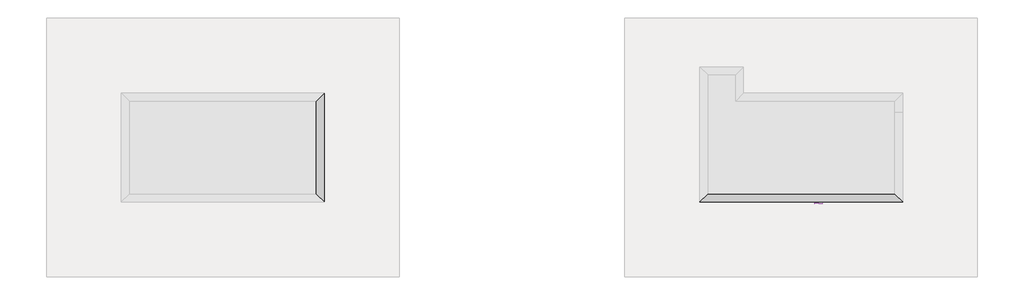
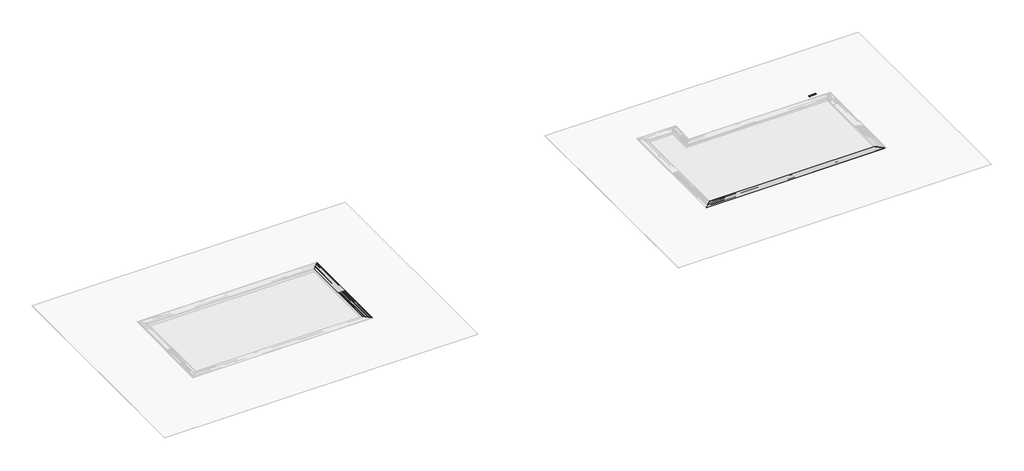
# One storey, part 3 of 6: 7 proxies.
"""IFC4 building model written with IfcOpenShell, lengths in millimetres."""

import ifcopenshell
import ifcopenshell.guid

model = None  # the IFC model being written
_history = None  # IfcOwnerHistory: only IFC2X3 demands one
_inside = {}  # id of a spatial element -> (the spatial element, [elements in it])
_under = {}  # id of a project, library or spatial element -> (it, [spatial elements below it])
_declared = {}  # id of a project -> (the project, [libraries it declares])
_typed = {}  # id of a type object -> (the type object, [elements of that type])
_made_of = {}  # id of a material, layer set ... -> (it, [elements and type objects made of it])


def new_model(schema):
    """Start an empty IFC model of exactly this schema.

    Asked for "IFC4X3", IfcOpenShell would pick the latest addendum, in which some entities
    have other attributes; the version numbers below select the first issue.
    IFC2X3 requires an IfcOwnerHistory on every rooted entity: one is made here for all.
    """
    global model, _history
    if schema == "IFC4X3":
        model = ifcopenshell.file(schema_version=(4, 3, 0, 0))
    else:
        model = ifcopenshell.file(schema=schema)
    _inside.clear()
    _under.clear()
    _declared.clear()
    _typed.clear()
    _made_of.clear()
    _history = None
    if model.schema == "IFC2X3":
        org = make("IfcOrganization", Name="unknown")
        user = make(
            "IfcPersonAndOrganization",
            ThePerson=make("IfcPerson", FamilyName="unknown"),
            TheOrganization=org,
        )
        app = make(
            "IfcApplication",
            ApplicationDeveloper=org,
            Version="unknown",
            ApplicationFullName="unknown",
            ApplicationIdentifier="unknown",
        )
        _history = make(
            "IfcOwnerHistory",
            OwningUser=user,
            OwningApplication=app,
            ChangeAction="ADDED",
            CreationDate=0,
        )
    return model


def make(cls, **values):
    """One entity of the class cls with the attributes given. An attribute that is None is left unset."""
    return model.create_entity(
        cls, **{name: value for name, value in values.items() if value is not None}
    )


def rooted(cls, **values):
    """An entity with a GlobalId (a new one), such as an element, a storey or a relation."""
    return make(cls, GlobalId=ifcopenshell.guid.new(), OwnerHistory=_history, **values)


def si_unit(unit_type, name, prefix=None):
    """IfcSIUnit, for example si_unit("LENGTHUNIT", "METRE", prefix="MILLI")."""
    return make("IfcSIUnit", UnitType=unit_type, Prefix=prefix, Name=name)


def assignment(units):
    """IfcUnitAssignment: the units of a project."""
    return None if units is None else make("IfcUnitAssignment", Units=units)


def point(xyz):
    """IfcCartesianPoint."""
    return None if xyz is None else make("IfcCartesianPoint", Coordinates=xyz)


def direction(xyz):
    """IfcDirection."""
    return None if xyz is None else make("IfcDirection", DirectionRatios=xyz)


def frame(location, z_axis=None, x_axis=None):
    """IfcAxis2Placement3D, a coordinate frame: its origin and axes. An axis left out is left unset."""
    return make(
        "IfcAxis2Placement3D",
        Location=point(location),
        Axis=direction(z_axis),
        RefDirection=direction(x_axis),
    )


def frame_2d(location, x_axis=None):
    """IfcAxis2Placement2D, a coordinate frame in the plane: its origin and x axis."""
    return make(
        "IfcAxis2Placement2D", Location=point(location), RefDirection=direction(x_axis)
    )


def origin():
    """The frame at (0, 0, 0) with its axes left unset."""
    return frame((0.0, 0.0, 0.0))


def place(relative_to, where):
    """IfcLocalPlacement: puts the frame where relative to a parent placement (None: the world)."""
    return make(
        "IfcLocalPlacement", PlacementRelTo=relative_to, RelativePlacement=where
    )


def context(
    kind, dimensions, precision=None, world=None, true_north=None, identifier=None
):
    """IfcGeometricRepresentationContext, for example the 3D "Model" context."""
    return make(
        "IfcGeometricRepresentationContext",
        ContextIdentifier=identifier,
        ContextType=kind,
        CoordinateSpaceDimension=dimensions,
        Precision=precision,
        WorldCoordinateSystem=world,
        TrueNorth=true_north,
    )


def project(units=None, contexts=None):
    """IfcProject with its units and contexts."""
    return rooted(
        "IfcProject",
        Name="project",
        RepresentationContexts=contexts,
        UnitsInContext=assignment(units),
    )


def spatial(cls, under=None, at=None, **own):
    """A site, building, storey or space (cls), placed at a placement, below another one or the project."""
    s = rooted(cls, ObjectPlacement=at, **own)
    if under is not None:
        _under.setdefault(under.id(), (under, []))[1].append(s)
    return s


def polyline(points):
    """IfcPolyline through the points."""
    return make("IfcPolyline", Points=[point(p) for p in points])


def circle_curve(where, radius):
    """IfcCircle in the frame where."""
    return make("IfcCircle", Position=where, Radius=radius)


def trimmed(basis, trim1, trim2, sense, master):
    """IfcTrimmedCurve: the piece of a basis curve between two trims."""
    return make(
        "IfcTrimmedCurve",
        BasisCurve=basis,
        Trim1=trim1,
        Trim2=trim2,
        SenseAgreement=sense,
        MasterRepresentation=master,
    )


def segment(curve, same_sense, transition):
    """IfcCompositeCurveSegment."""
    return make(
        "IfcCompositeCurveSegment",
        Transition=transition,
        SameSense=same_sense,
        ParentCurve=curve,
    )


def composite_curve(segments, self_intersect=None):
    """IfcCompositeCurve: segments joined end to end."""
    return make("IfcCompositeCurve", Segments=segments, SelfIntersect=self_intersect)


def outline(outer, holes=None, kind="AREA"):
    """IfcArbitraryClosedProfileDef: a profile drawn as a closed curve; with holes, ...WithVoids."""
    if holes is None:
        return make("IfcArbitraryClosedProfileDef", ProfileType=kind, OuterCurve=outer)
    return make(
        "IfcArbitraryProfileDefWithVoids",
        ProfileType=kind,
        OuterCurve=outer,
        InnerCurves=holes,
    )


def extrude(swept, where, along, depth):
    """IfcExtrudedAreaSolid: the profile swept, set in the frame where, extruded along a direction by depth."""
    return make(
        "IfcExtrudedAreaSolid",
        SweptArea=swept,
        Position=where,
        ExtrudedDirection=direction(along),
        Depth=depth,
    )


def faces_of(points, faces, orient=None, outer=None):
    """IfcFace entities. A face is a list of loops; a loop is a list of indices into points, from 0.

    orient and outer hold one flag for each loop. By default every Orientation is true, the
    first loop of a face is its IfcFaceOuterBound and the others are IfcFaceBound.
    """
    made = []
    for i, loops in enumerate(faces):
        bounds = []
        for j, loop in enumerate(loops):
            is_outer = j == 0 if outer is None else outer[i][j]
            bounds.append(
                make(
                    "IfcFaceOuterBound" if is_outer else "IfcFaceBound",
                    Bound=make("IfcPolyLoop", Polygon=[points[k] for k in loop]),
                    Orientation=True if orient is None else orient[i][j],
                )
            )
        made.append(make("IfcFace", Bounds=bounds))
    return made


def faceted_brep(points, faces, orient=None, outer=None, voids=None):
    """IfcFacetedBrep: a solid bounded by flat faces; with voids (closed shells), ...WithVoids."""
    shared = [point(p) for p in points]
    hull = make("IfcClosedShell", CfsFaces=faces_of(shared, faces, orient, outer))
    if voids is None:
        return make("IfcFacetedBrep", Outer=hull)
    return make(
        "IfcFacetedBrepWithVoids",
        Outer=hull,
        Voids=[
            make(cls, CfsFaces=faces_of(shared, fs, o, b)) for cls, fs, o, b in voids
        ],
    )


def shape(context_of_items, identifier, shape_type, items):
    """IfcShapeRepresentation: the items that make up one representation, for example the "Body"."""
    return make(
        "IfcShapeRepresentation",
        ContextOfItems=context_of_items,
        RepresentationIdentifier=identifier,
        RepresentationType=shape_type,
        Items=items,
    )


def source(mapping_origin, context_of_items, identifier, shape_type, items):
    """IfcRepresentationMap: a shape defined once, which mapped items show again and again."""
    return make(
        "IfcRepresentationMap",
        MappingOrigin=mapping_origin,
        MappedRepresentation=shape(context_of_items, identifier, shape_type, items),
    )


def transform(
    local_origin,
    x_axis=None,
    y_axis=None,
    z_axis=None,
    scale=None,
    scale2=None,
    scale3=None,
    uniform=True,
):
    """IfcCartesianTransformationOperator3D, or its non-uniform kind. x_axis, y_axis, z_axis: its Axis1, 2, 3."""
    if uniform:
        return make(
            "IfcCartesianTransformationOperator3D",
            Axis1=direction(x_axis),
            Axis2=direction(y_axis),
            LocalOrigin=point(local_origin),
            Scale=scale,
            Axis3=direction(z_axis),
        )
    return make(
        "IfcCartesianTransformationOperator3DnonUniform",
        Axis1=direction(x_axis),
        Axis2=direction(y_axis),
        LocalOrigin=point(local_origin),
        Scale=scale,
        Axis3=direction(z_axis),
        Scale2=scale2,
        Scale3=scale3,
    )


def mapped(mapping_source, mapping_target):
    """IfcMappedItem: shows the shape of a source again, moved by a transform."""
    return make(
        "IfcMappedItem", MappingSource=mapping_source, MappingTarget=mapping_target
    )


def made_of(thing, what):
    """Note that an element or type object is made of a material, layer set ...; save() writes the relation."""
    if what is not None:
        _made_of.setdefault(what.id(), (what, []))[1].append(thing)
    return thing


def element(
    cls,
    number,
    at=None,
    inside=None,
    cuts=None,
    type_object=None,
    material=None,
    context=None,
    identifier="Body",
    shape_type=None,
    held_by="IfcProductDefinitionShape",
    body=None,
    shapes=None,
    **own,
):
    """One element of the class cls, such as IfcWall. Its Tag is "e" and its number.

    at: its placement. inside: the storey or other place that contains it. cuts: it is an
    opening in that element (IfcRelVoidsElement). A single representation is given by context,
    identifier, shape_type and body (its items); several are given by shapes. held_by: the class
    of the entity that holds the representations. save() writes the other relations.
    """
    e = rooted(cls, Tag="e%d" % number, ObjectPlacement=at, **own)
    if body is not None:
        shapes = [shape(context, identifier, shape_type, body)]
    if shapes is not None:
        e.Representation = make(held_by, Representations=shapes)
    if inside is not None:
        _inside.setdefault(inside.id(), (inside, []))[1].append(e)
    if cuts is not None:
        rooted(
            "IfcRelVoidsElement", RelatingBuildingElement=cuts, RelatedOpeningElement=e
        )
    if type_object is not None:
        _typed.setdefault(type_object.id(), (type_object, []))[1].append(e)
    return made_of(e, material)


def aggregate(whole, parts):
    """IfcRelAggregates: a whole, such as a stair, and the parts it consists of."""
    return rooted("IfcRelAggregates", RelatingObject=whole, RelatedObjects=parts)


def save(model, path):
    """Write the relations noted so far, then the file.

    IfcRelAggregates (storeys below a building ...), IfcRelContainedInSpatialStructure (elements
    in a storey), IfcRelDefinesByType, IfcRelAssociatesMaterial and IfcRelDeclares: one each for
    every whole, place, type object, material and project.
    """
    for whole, parts in _under.values():
        aggregate(whole, parts)
    for where, things in _inside.values():
        rooted(
            "IfcRelContainedInSpatialStructure",
            RelatedElements=things,
            RelatingStructure=where,
        )
    for kind, things in _typed.values():
        rooted("IfcRelDefinesByType", RelatedObjects=things, RelatingType=kind)
    for what, things in _made_of.values():
        rooted("IfcRelAssociatesMaterial", RelatedObjects=things, RelatingMaterial=what)
    for by, libraries in _declared.values():
        rooted("IfcRelDeclares", RelatingContext=by, RelatedDefinitions=libraries)
    model.write(path)


def generic_models_2e22c04a(model_context):
    return source(origin(), model_context, "Body", "SweptSolid", [
        extrude(outline(composite_curve([segment(polyline([(0.0, 23.9), (6.4, 23.9)]), True, "CONTINUOUS"), segment(trimmed(circle_curve(frame_2d((-23.9, 23.9)), 30.3), [point((6.4, 23.9))], [point((-23.9, -6.4))], False, "CARTESIAN"), True, "CONTINUOUS"), segment(polyline([(-23.9, -6.4), (-23.9, 0.0)]), True, "CONTINUOUS"), segment(trimmed(circle_curve(frame_2d((-23.9, 23.9)), 23.9), [point((-23.9, 0.0))], [point((0.0, 23.9))], True, "CARTESIAN"), True, "CONTINUOUS")], self_intersect=False)), frame((0.0, 0.0, 0.0), z_axis=(1.0, 0.0, 0.0), x_axis=(0.0, 1.0, 0.0)), (0.0, 0.0, 1.0), 335.0),
    ])


def generic_models_158b5dbd(model_context):
    return source(origin(), model_context, "Body", "SweptSolid", [
        extrude(outline(composite_curve([segment(polyline([(0.0, 23.9), (6.4, 23.9)]), True, "CONTINUOUS"), segment(trimmed(circle_curve(frame_2d((-23.9, 23.9)), 30.3), [point((6.4, 23.9))], [point((-23.9, -6.4))], False, "CARTESIAN"), True, "CONTINUOUS"), segment(polyline([(-23.9, -6.4), (-23.9, 0.0)]), True, "CONTINUOUS"), segment(trimmed(circle_curve(frame_2d((-23.9, 23.9)), 23.9), [point((-23.9, 0.0))], [point((0.0, 23.9))], True, "CARTESIAN"), True, "CONTINUOUS")], self_intersect=False)), frame((0.0, 0.0, 0.0), z_axis=(1.0, 0.0, 0.0), x_axis=(0.0, 1.0, 0.0)), (0.0, 0.0, 1.0), 4123.1056256),
    ])


model = new_model("IFC4")

# Units and contexts
model_context = context("Model", 3, world=origin())
ifc_project = project(units=[si_unit("LENGTHUNIT", "METRE", prefix="MILLI")], contexts=[model_context])

# Site, building, storey
site = spatial("IfcSite", under=ifc_project)
building = spatial("IfcBuilding", under=site)
storey = spatial("IfcBuildingStorey", under=building, Name="EXAGRES_Serie NUBIA_Piscinas_ejemplo", Elevation=18000.0)

# Proxies
placement = place(None, origin())
element("IfcBuildingElementProxy", 1, Name="Wall Sweeps", at=placement, inside=storey, context=model_context, shape_type="SweptSolid", body=[
    extrude(outline(polyline([(-13343.8828161, -4528.6632512), (-13648.8828161, -4223.6632512), (-5008.8828161, -4223.6632512), (-5313.8828161, -4528.6632512), (-13343.8828161, -4528.6632512)])), frame((0.0, 0.0, 17818.74), z_axis=(0.0, 0.0, 1.0), x_axis=(1.0, 0.0, 0.0)), (0.0, 0.0, 1.0), 200.0),
])
element("IfcBuildingElementProxy", 2, Name="Wall Sweeps", at=placement, inside=storey, context=model_context, shape_type="Brep", body=[
    faceted_brep([(19384.1171839, -8556.6632512, 18000.0), (19371.1171839, -8543.6632512, 18000.0), (19371.1171839, -8543.6632512, 18033.0), (19701.1171839, -8873.6632512, 18033.0), (19701.1171839, -8873.6632512, 18021.0), (19695.1171839, -8867.6632512, 18021.0), (19695.1171839, -8867.6632512, 18022.0), (19691.1171839, -8863.6632512, 18022.0), (19691.1171839, -8863.6632512, 18021.0), (19685.1171839, -8857.6632512, 18021.0), (19685.1171839, -8857.6632512, 18022.0), (19681.1171839, -8853.6632512, 18022.0), (19681.1171839, -8853.6632512, 18021.0), (19675.1171839, -8847.6632512, 18021.0), (19675.1171839, -8847.6632512, 18022.0), (19671.1171839, -8843.6632512, 18022.0), (19671.1171839, -8843.6632512, 18021.0), (19665.1171839, -8837.6632512, 18021.0), (19665.1171839, -8837.6632512, 18022.0), (19661.1171839, -8833.6632512, 18022.0), (19661.1171839, -8833.6632512, 18021.0), (19655.1171839, -8827.6632512, 18021.0), (19655.1171839, -8827.6632512, 18022.0), (19651.1171839, -8823.6632512, 18022.0), (19651.1171839, -8823.6632512, 18021.0), (19645.1171839, -8817.6632512, 18021.0), (19645.1171839, -8817.6632512, 18022.0), (19641.1171839, -8813.6632512, 18022.0), (19641.1171839, -8813.6632512, 18021.0), (19635.1171839, -8807.6632512, 18021.0), (19635.1171839, -8807.6632512, 18022.0), (19631.1171839, -8803.6632512, 18022.0), (19631.1171839, -8803.6632512, 18021.0), (19625.1171839, -8797.6632512, 18021.0), (19625.1171839, -8797.6632512, 18022.0), (19621.1171839, -8793.6632512, 18022.0), (19621.1171839, -8793.6632512, 18021.0), (19615.1171839, -8787.6632512, 18021.0), (19615.1171839, -8787.6632512, 18022.0), (19611.1171839, -8783.6632512, 18022.0), (19611.1171839, -8783.6632512, 18021.0), (19605.1171839, -8777.6632512, 18021.0), (19605.1171839, -8777.6632512, 18022.0), (19601.1171839, -8773.6632512, 18022.0), (19601.1171839, -8773.6632512, 18021.0), (19595.1171839, -8767.6632512, 18021.0), (19595.1171839, -8767.6632512, 18022.0), (19591.1171839, -8763.6632512, 18022.0), (19591.1171839, -8763.6632512, 18021.0), (19585.1171839, -8757.6632512, 18021.0), (19585.1171839, -8757.6632512, 18022.0), (19581.1171839, -8753.6632512, 18022.0), (19581.1171839, -8753.6632512, 18021.0), (19575.1171839, -8747.6632512, 18021.0), (19575.1171839, -8747.6632512, 18022.0), (19571.1171839, -8743.6632512, 18022.0), (19571.1171839, -8743.6632512, 18021.0), (19565.1171839, -8737.6632512, 18021.0), (19565.1171839, -8737.6632512, 18022.0), (19561.1171839, -8733.6632512, 18022.0), (19561.1171839, -8733.6632512, 18021.0), (19555.1171839, -8727.6632512, 18021.0), (19555.1171839, -8727.6632512, 18022.0), (19551.1171839, -8723.6632512, 18022.0), (19551.1171839, -8723.6632512, 18021.0), (19545.1171839, -8717.6632512, 18021.0), (19545.1171839, -8717.6632512, 18022.0), (19541.1171839, -8713.6632512, 18022.0), (19541.1171839, -8713.6632512, 18021.0), (19535.1171839, -8707.6632512, 18021.0), (19535.1171839, -8707.6632512, 18022.0), (19531.1171839, -8703.6632512, 18022.0), (19531.1171839, -8703.6632512, 18021.0), (19525.1171839, -8697.6632512, 18021.0), (19525.1171839, -8697.6632512, 18022.0), (19521.1171839, -8693.6632512, 18022.0), (19521.1171839, -8693.6632512, 18021.0), (19515.1171839, -8687.6632512, 18021.0), (19515.1171839, -8687.6632512, 18022.0), (19511.1171839, -8683.6632512, 18022.0), (19511.1171839, -8683.6632512, 18021.0), (19505.1171839, -8677.6632512, 18021.0), (19505.1171839, -8677.6632512, 18022.0), (19501.1171839, -8673.6632512, 18022.0), (19501.1171839, -8673.6632512, 18021.0), (19495.1171839, -8667.6632512, 18021.0), (19495.1171839, -8667.6632512, 18022.0), (19491.1171839, -8663.6632512, 18022.0), (19491.1171839, -8663.6632512, 18021.0), (19485.1171839, -8657.6632512, 18021.0), (19485.1171839, -8657.6632512, 18022.0), (19481.1171839, -8653.6632512, 18022.0), (19481.1171839, -8653.6632512, 18021.0), (19475.1171839, -8647.6632512, 18021.0), (19475.1171839, -8647.6632512, 18022.0), (19471.1171839, -8643.6632512, 18022.0), (19471.1171839, -8643.6632512, 18021.0), (19465.1171839, -8637.6632512, 18021.0), (19465.1171839, -8637.6632512, 18022.0), (19461.1171839, -8633.6632512, 18022.0), (19461.1171839, -8633.6632512, 18021.0), (19455.1171839, -8627.6632512, 18021.0), (19455.1171839, -8627.6632512, 18022.0), (19451.1171839, -8623.6632512, 18022.0), (19451.1171839, -8623.6632512, 18021.0), (19445.1171839, -8617.6632512, 18021.0), (19445.1171839, -8617.6632512, 18022.0), (19441.1171839, -8613.6632512, 18022.0), (19441.1171839, -8613.6632512, 18021.0), (19435.1171839, -8607.6632512, 18021.0), (19435.1171839, -8607.6632512, 18022.0), (19431.1171839, -8603.6632512, 18022.0), (19431.1171839, -8603.6632512, 18021.0), (19425.1171839, -8597.6632512, 18021.0), (19425.1171839, -8597.6632512, 18022.0), (19421.1171839, -8593.6632512, 18022.0), (19421.1171839, -8593.6632512, 18021.0), (19415.1171839, -8587.6632512, 18021.0), (19415.1171839, -8587.6632512, 18022.0), (19411.1171839, -8583.6632512, 18022.0), (19411.1171839, -8583.6632512, 18021.0), (19405.1171839, -8577.6632512, 18021.0), (19405.1171839, -8577.6632512, 18022.0), (19401.1171839, -8573.6632512, 18022.0), (19401.1171839, -8573.6632512, 18021.0), (19395.1171839, -8567.6632512, 18021.0), (19395.1171839, -8567.6632512, 18022.0), (19391.1171839, -8563.6632512, 18022.0), (19391.1171839, -8563.6632512, 18021.0), (19384.1171839, -8556.6632512, 18021.0), (19384.1171839, -8556.6632512, 18014.0), (19383.1171839, -8555.6632512, 18014.0), (19383.1171839, -8555.6632512, 18008.0), (19384.1171839, -8556.6632512, 18008.0), (11358.1171839, -8556.6632512, 18000.0), (11358.1171839, -8556.6632512, 18008.0), (11359.1171839, -8555.6632512, 18008.0), (11359.1171839, -8555.6632512, 18014.0), (11358.1171839, -8556.6632512, 18014.0), (11358.1171839, -8556.6632512, 18021.0), (11351.1171839, -8563.6632512, 18021.0), (11351.1171839, -8563.6632512, 18022.0), (11347.1171839, -8567.6632512, 18022.0), (11347.1171839, -8567.6632512, 18021.0), (11341.1171839, -8573.6632512, 18021.0), (11341.1171839, -8573.6632512, 18022.0), (11337.1171839, -8577.6632512, 18022.0), (11337.1171839, -8577.6632512, 18021.0), (11331.1171839, -8583.6632512, 18021.0), (11331.1171839, -8583.6632512, 18022.0), (11327.1171839, -8587.6632512, 18022.0), (11327.1171839, -8587.6632512, 18021.0), (11321.1171839, -8593.6632512, 18021.0), (11321.1171839, -8593.6632512, 18022.0), (11317.1171839, -8597.6632512, 18022.0), (11317.1171839, -8597.6632512, 18021.0), (11311.1171839, -8603.6632512, 18021.0), (11311.1171839, -8603.6632512, 18022.0), (11307.1171839, -8607.6632512, 18022.0), (11307.1171839, -8607.6632512, 18021.0), (11301.1171839, -8613.6632512, 18021.0), (11301.1171839, -8613.6632512, 18022.0), (11297.1171839, -8617.6632512, 18022.0), (11297.1171839, -8617.6632512, 18021.0), (11291.1171839, -8623.6632512, 18021.0), (11291.1171839, -8623.6632512, 18022.0), (11287.1171839, -8627.6632512, 18022.0), (11287.1171839, -8627.6632512, 18021.0), (11281.1171839, -8633.6632512, 18021.0), (11281.1171839, -8633.6632512, 18022.0), (11277.1171839, -8637.6632512, 18022.0), (11277.1171839, -8637.6632512, 18021.0), (11271.1171839, -8643.6632512, 18021.0), (11271.1171839, -8643.6632512, 18022.0), (11267.1171839, -8647.6632512, 18022.0), (11267.1171839, -8647.6632512, 18021.0), (11261.1171839, -8653.6632512, 18021.0), (11261.1171839, -8653.6632512, 18022.0), (11257.1171839, -8657.6632512, 18022.0), (11257.1171839, -8657.6632512, 18021.0), (11251.1171839, -8663.6632512, 18021.0), (11251.1171839, -8663.6632512, 18022.0), (11247.1171839, -8667.6632512, 18022.0), (11247.1171839, -8667.6632512, 18021.0), (11241.1171839, -8673.6632512, 18021.0), (11241.1171839, -8673.6632512, 18022.0), (11237.1171839, -8677.6632512, 18022.0), (11237.1171839, -8677.6632512, 18021.0), (11231.1171839, -8683.6632512, 18021.0), (11231.1171839, -8683.6632512, 18022.0), (11227.1171839, -8687.6632512, 18022.0), (11227.1171839, -8687.6632512, 18021.0), (11221.1171839, -8693.6632512, 18021.0), (11221.1171839, -8693.6632512, 18022.0), (11217.1171839, -8697.6632512, 18022.0), (11217.1171839, -8697.6632512, 18021.0), (11211.1171839, -8703.6632512, 18021.0), (11211.1171839, -8703.6632512, 18022.0), (11207.1171839, -8707.6632512, 18022.0), (11207.1171839, -8707.6632512, 18021.0), (11201.1171839, -8713.6632512, 18021.0), (11201.1171839, -8713.6632512, 18022.0), (11197.1171839, -8717.6632512, 18022.0), (11197.1171839, -8717.6632512, 18021.0), (11191.1171839, -8723.6632512, 18021.0), (11191.1171839, -8723.6632512, 18022.0), (11187.1171839, -8727.6632512, 18022.0), (11187.1171839, -8727.6632512, 18021.0), (11181.1171839, -8733.6632512, 18021.0), (11181.1171839, -8733.6632512, 18022.0), (11177.1171839, -8737.6632512, 18022.0), (11177.1171839, -8737.6632512, 18021.0), (11171.1171839, -8743.6632512, 18021.0), (11171.1171839, -8743.6632512, 18022.0), (11167.1171839, -8747.6632512, 18022.0), (11167.1171839, -8747.6632512, 18021.0), (11161.1171839, -8753.6632512, 18021.0), (11161.1171839, -8753.6632512, 18022.0), (11157.1171839, -8757.6632512, 18022.0), (11157.1171839, -8757.6632512, 18021.0), (11151.1171839, -8763.6632512, 18021.0), (11151.1171839, -8763.6632512, 18022.0), (11147.1171839, -8767.6632512, 18022.0), (11147.1171839, -8767.6632512, 18021.0), (11141.1171839, -8773.6632512, 18021.0), (11141.1171839, -8773.6632512, 18022.0), (11137.1171839, -8777.6632512, 18022.0), (11137.1171839, -8777.6632512, 18021.0), (11131.1171839, -8783.6632512, 18021.0), (11131.1171839, -8783.6632512, 18022.0), (11127.1171839, -8787.6632512, 18022.0), (11127.1171839, -8787.6632512, 18021.0), (11121.1171839, -8793.6632512, 18021.0), (11121.1171839, -8793.6632512, 18022.0), (11117.1171839, -8797.6632512, 18022.0), (11117.1171839, -8797.6632512, 18021.0), (11111.1171839, -8803.6632512, 18021.0), (11111.1171839, -8803.6632512, 18022.0), (11107.1171839, -8807.6632512, 18022.0), (11107.1171839, -8807.6632512, 18021.0), (11101.1171839, -8813.6632512, 18021.0), (11101.1171839, -8813.6632512, 18022.0), (11097.1171839, -8817.6632512, 18022.0), (11097.1171839, -8817.6632512, 18021.0), (11091.1171839, -8823.6632512, 18021.0), (11091.1171839, -8823.6632512, 18022.0), (11087.1171839, -8827.6632512, 18022.0), (11087.1171839, -8827.6632512, 18021.0), (11081.1171839, -8833.6632512, 18021.0), (11081.1171839, -8833.6632512, 18022.0), (11077.1171839, -8837.6632512, 18022.0), (11077.1171839, -8837.6632512, 18021.0), (11071.1171839, -8843.6632512, 18021.0), (11071.1171839, -8843.6632512, 18022.0), (11067.1171839, -8847.6632512, 18022.0), (11067.1171839, -8847.6632512, 18021.0), (11061.1171839, -8853.6632512, 18021.0), (11061.1171839, -8853.6632512, 18022.0), (11057.1171839, -8857.6632512, 18022.0), (11057.1171839, -8857.6632512, 18021.0), (11051.1171839, -8863.6632512, 18021.0), (11051.1171839, -8863.6632512, 18022.0), (11047.1171839, -8867.6632512, 18022.0), (11047.1171839, -8867.6632512, 18021.0), (11041.1171839, -8873.6632512, 18021.0), (11041.1171839, -8873.6632512, 18033.0), (11371.1171839, -8543.6632512, 18033.0), (11371.1171839, -8543.6632512, 18000.0)], [[[0, 1, 2, 3, 4, 5, 6, 7, 8, 9, 10, 11, 12, 13, 14, 15, 16, 17, 18, 19, 20, 21, 22, 23, 24, 25, 26, 27, 28, 29, 30, 31, 32, 33, 34, 35, 36, 37, 38, 39, 40, 41, 42, 43, 44, 45, 46, 47, 48, 49, 50, 51, 52, 53, 54, 55, 56, 57, 58, 59, 60, 61, 62, 63, 64, 65, 66, 67, 68, 69, 70, 71, 72, 73, 74, 75, 76, 77, 78, 79, 80, 81, 82, 83, 84, 85, 86, 87, 88, 89, 90, 91, 92, 93, 94, 95, 96, 97, 98, 99, 100, 101, 102, 103, 104, 105, 106, 107, 108, 109, 110, 111, 112, 113, 114, 115, 116, 117, 118, 119, 120, 121, 122, 123, 124, 125, 126, 127, 128, 129, 130, 131, 132, 133]], [[134, 135, 136, 137, 138, 139, 140, 141, 142, 143, 144, 145, 146, 147, 148, 149, 150, 151, 152, 153, 154, 155, 156, 157, 158, 159, 160, 161, 162, 163, 164, 165, 166, 167, 168, 169, 170, 171, 172, 173, 174, 175, 176, 177, 178, 179, 180, 181, 182, 183, 184, 185, 186, 187, 188, 189, 190, 191, 192, 193, 194, 195, 196, 197, 198, 199, 200, 201, 202, 203, 204, 205, 206, 207, 208, 209, 210, 211, 212, 213, 214, 215, 216, 217, 218, 219, 220, 221, 222, 223, 224, 225, 226, 227, 228, 229, 230, 231, 232, 233, 234, 235, 236, 237, 238, 239, 240, 241, 242, 243, 244, 245, 246, 247, 248, 249, 250, 251, 252, 253, 254, 255, 256, 257, 258, 259, 260, 261, 262, 263, 264, 265, 266, 267]], [[1, 0, 134, 267]], [[2, 1, 267, 266]], [[3, 2, 266, 265]], [[4, 3, 265, 264]], [[5, 4, 264, 263]], [[6, 5, 263, 262]], [[7, 6, 262, 261]], [[8, 7, 261, 260]], [[9, 8, 260, 259]], [[10, 9, 259, 258]], [[11, 10, 258, 257]], [[12, 11, 257, 256]], [[13, 12, 256, 255]], [[14, 13, 255, 254]], [[15, 14, 254, 253]], [[16, 15, 253, 252]], [[17, 16, 252, 251]], [[18, 17, 251, 250]], [[19, 18, 250, 249]], [[20, 19, 249, 248]], [[21, 20, 248, 247]], [[22, 21, 247, 246]], [[23, 22, 246, 245]], [[24, 23, 245, 244]], [[25, 24, 244, 243]], [[26, 25, 243, 242]], [[27, 26, 242, 241]], [[28, 27, 241, 240]], [[29, 28, 240, 239]], [[30, 29, 239, 238]], [[31, 30, 238, 237]], [[32, 31, 237, 236]], [[33, 32, 236, 235]], [[34, 33, 235, 234]], [[35, 34, 234, 233]], [[36, 35, 233, 232]], [[37, 36, 232, 231]], [[38, 37, 231, 230]], [[39, 38, 230, 229]], [[40, 39, 229, 228]], [[41, 40, 228, 227]], [[42, 41, 227, 226]], [[43, 42, 226, 225]], [[44, 43, 225, 224]], [[45, 44, 224, 223]], [[46, 45, 223, 222]], [[47, 46, 222, 221]], [[48, 47, 221, 220]], [[49, 48, 220, 219]], [[50, 49, 219, 218]], [[51, 50, 218, 217]], [[52, 51, 217, 216]], [[53, 52, 216, 215]], [[54, 53, 215, 214]], [[55, 54, 214, 213]], [[56, 55, 213, 212]], [[57, 56, 212, 211]], [[58, 57, 211, 210]], [[59, 58, 210, 209]], [[60, 59, 209, 208]], [[61, 60, 208, 207]], [[62, 61, 207, 206]], [[63, 62, 206, 205]], [[64, 63, 205, 204]], [[65, 64, 204, 203]], [[66, 65, 203, 202]], [[67, 66, 202, 201]], [[68, 67, 201, 200]], [[69, 68, 200, 199]], [[70, 69, 199, 198]], [[71, 70, 198, 197]], [[72, 71, 197, 196]], [[73, 72, 196, 195]], [[74, 73, 195, 194]], [[75, 74, 194, 193]], [[76, 75, 193, 192]], [[77, 76, 192, 191]], [[78, 77, 191, 190]], [[79, 78, 190, 189]], [[80, 79, 189, 188]], [[81, 80, 188, 187]], [[82, 81, 187, 186]], [[83, 82, 186, 185]], [[84, 83, 185, 184]], [[85, 84, 184, 183]], [[86, 85, 183, 182]], [[87, 86, 182, 181]], [[88, 87, 181, 180]], [[89, 88, 180, 179]], [[90, 89, 179, 178]], [[91, 90, 178, 177]], [[92, 91, 177, 176]], [[93, 92, 176, 175]], [[94, 93, 175, 174]], [[95, 94, 174, 173]], [[96, 95, 173, 172]], [[97, 96, 172, 171]], [[98, 97, 171, 170]], [[99, 98, 170, 169]], [[100, 99, 169, 168]], [[101, 100, 168, 167]], [[102, 101, 167, 166]], [[103, 102, 166, 165]], [[104, 103, 165, 164]], [[105, 104, 164, 163]], [[106, 105, 163, 162]], [[107, 106, 162, 161]], [[108, 107, 161, 160]], [[109, 108, 160, 159]], [[110, 109, 159, 158]], [[111, 110, 158, 157]], [[112, 111, 157, 156]], [[113, 112, 156, 155]], [[114, 113, 155, 154]], [[115, 114, 154, 153]], [[116, 115, 153, 152]], [[117, 116, 152, 151]], [[118, 117, 151, 150]], [[119, 118, 150, 149]], [[120, 119, 149, 148]], [[121, 120, 148, 147]], [[122, 121, 147, 146]], [[123, 122, 146, 145]], [[124, 123, 145, 144]], [[125, 124, 144, 143]], [[126, 125, 143, 142]], [[127, 126, 142, 141]], [[128, 127, 141, 140]], [[129, 128, 140, 139]], [[130, 129, 139, 138]], [[131, 130, 138, 137]], [[132, 131, 137, 136]], [[133, 132, 136, 135]], [[0, 133, 135, 134]]]),
])
element("IfcBuildingElementProxy", 3, Name="Wall Sweeps", at=placement, inside=storey, context=model_context, shape_type="Brep", body=[
    faceted_brep([(19691.1171839, -8863.6632512, 17818.74), (19386.1171839, -8558.6632512, 17818.74), (19386.1171839, -8558.6632512, 18018.74), (19691.1171839, -8863.6632512, 18018.74), (11051.1171839, -8863.6632512, 17818.74), (11051.1171839, -8863.6632512, 18018.74), (11356.1171839, -8558.6632512, 18018.74), (11356.1171839, -8558.6632512, 18000.0), (11356.1171839, -8558.6632512, 17818.74), (11146.1171839, -8768.6632512, 17818.74)], [[[0, 1, 2, 3]], [[4, 5, 6, 7, 8, 9]], [[2, 1, 8, 7, 6]], [[1, 0, 4, 9, 8]], [[3, 2, 6, 5]], [[0, 3, 5, 4]]]),
])
element("IfcBuildingElementProxy", 4, Name="Wall Sweeps", at=placement, inside=storey, context=model_context, shape_type="Brep", body=[
    faceted_brep([(-5315.8828161, -4530.6632512, 18000.0), (-5328.8828161, -4543.6632512, 18000.0), (-5328.8828161, -4543.6632512, 18033.0), (-4998.8828161, -4213.6632512, 18033.0), (-4998.8828161, -4213.6632512, 18021.0), (-5004.8828161, -4219.6632512, 18021.0), (-5004.8828161, -4219.6632512, 18022.0), (-5008.8828161, -4223.6632512, 18022.0), (-5008.8828161, -4223.6632512, 18021.0), (-5014.8828161, -4229.6632512, 18021.0), (-5014.8828161, -4229.6632512, 18022.0), (-5018.8828161, -4233.6632512, 18022.0), (-5018.8828161, -4233.6632512, 18021.0), (-5024.8828161, -4239.6632512, 18021.0), (-5024.8828161, -4239.6632512, 18022.0), (-5028.8828161, -4243.6632512, 18022.0), (-5028.8828161, -4243.6632512, 18021.0), (-5034.8828161, -4249.6632512, 18021.0), (-5034.8828161, -4249.6632512, 18022.0), (-5038.8828161, -4253.6632512, 18022.0), (-5038.8828161, -4253.6632512, 18021.0), (-5044.8828161, -4259.6632512, 18021.0), (-5044.8828161, -4259.6632512, 18022.0), (-5048.8828161, -4263.6632512, 18022.0), (-5048.8828161, -4263.6632512, 18021.0), (-5054.8828161, -4269.6632512, 18021.0), (-5054.8828161, -4269.6632512, 18022.0), (-5058.8828161, -4273.6632512, 18022.0), (-5058.8828161, -4273.6632512, 18021.0), (-5064.8828161, -4279.6632512, 18021.0), (-5064.8828161, -4279.6632512, 18022.0), (-5068.8828161, -4283.6632512, 18022.0), (-5068.8828161, -4283.6632512, 18021.0), (-5074.8828161, -4289.6632512, 18021.0), (-5074.8828161, -4289.6632512, 18022.0), (-5078.8828161, -4293.6632512, 18022.0), (-5078.8828161, -4293.6632512, 18021.0), (-5084.8828161, -4299.6632512, 18021.0), (-5084.8828161, -4299.6632512, 18022.0), (-5088.8828161, -4303.6632512, 18022.0), (-5088.8828161, -4303.6632512, 18021.0), (-5094.8828161, -4309.6632512, 18021.0), (-5094.8828161, -4309.6632512, 18022.0), (-5098.8828161, -4313.6632512, 18022.0), (-5098.8828161, -4313.6632512, 18021.0), (-5104.8828161, -4319.6632512, 18021.0), (-5104.8828161, -4319.6632512, 18022.0), (-5108.8828161, -4323.6632512, 18022.0), (-5108.8828161, -4323.6632512, 18021.0), (-5114.8828161, -4329.6632512, 18021.0), (-5114.8828161, -4329.6632512, 18022.0), (-5118.8828161, -4333.6632512, 18022.0), (-5118.8828161, -4333.6632512, 18021.0), (-5124.8828161, -4339.6632512, 18021.0), (-5124.8828161, -4339.6632512, 18022.0), (-5128.8828161, -4343.6632512, 18022.0), (-5128.8828161, -4343.6632512, 18021.0), (-5134.8828161, -4349.6632512, 18021.0), (-5134.8828161, -4349.6632512, 18022.0), (-5138.8828161, -4353.6632512, 18022.0), (-5138.8828161, -4353.6632512, 18021.0), (-5144.8828161, -4359.6632512, 18021.0), (-5144.8828161, -4359.6632512, 18022.0), (-5148.8828161, -4363.6632512, 18022.0), (-5148.8828161, -4363.6632512, 18021.0), (-5154.8828161, -4369.6632512, 18021.0), (-5154.8828161, -4369.6632512, 18022.0), (-5158.8828161, -4373.6632512, 18022.0), (-5158.8828161, -4373.6632512, 18021.0), (-5164.8828161, -4379.6632512, 18021.0), (-5164.8828161, -4379.6632512, 18022.0), (-5168.8828161, -4383.6632512, 18022.0), (-5168.8828161, -4383.6632512, 18021.0), (-5174.8828161, -4389.6632512, 18021.0), (-5174.8828161, -4389.6632512, 18022.0), (-5178.8828161, -4393.6632512, 18022.0), (-5178.8828161, -4393.6632512, 18021.0), (-5184.8828161, -4399.6632512, 18021.0), (-5184.8828161, -4399.6632512, 18022.0), (-5188.8828161, -4403.6632512, 18022.0), (-5188.8828161, -4403.6632512, 18021.0), (-5194.8828161, -4409.6632512, 18021.0), (-5194.8828161, -4409.6632512, 18022.0), (-5198.8828161, -4413.6632512, 18022.0), (-5198.8828161, -4413.6632512, 18021.0), (-5204.8828161, -4419.6632512, 18021.0), (-5204.8828161, -4419.6632512, 18022.0), (-5208.8828161, -4423.6632512, 18022.0), (-5208.8828161, -4423.6632512, 18021.0), (-5214.8828161, -4429.6632512, 18021.0), (-5214.8828161, -4429.6632512, 18022.0), (-5218.8828161, -4433.6632512, 18022.0), (-5218.8828161, -4433.6632512, 18021.0), (-5224.8828161, -4439.6632512, 18021.0), (-5224.8828161, -4439.6632512, 18022.0), (-5228.8828161, -4443.6632512, 18022.0), (-5228.8828161, -4443.6632512, 18021.0), (-5234.8828161, -4449.6632512, 18021.0), (-5234.8828161, -4449.6632512, 18022.0), (-5238.8828161, -4453.6632512, 18022.0), (-5238.8828161, -4453.6632512, 18021.0), (-5244.8828161, -4459.6632512, 18021.0), (-5244.8828161, -4459.6632512, 18022.0), (-5248.8828161, -4463.6632512, 18022.0), (-5248.8828161, -4463.6632512, 18021.0), (-5254.8828161, -4469.6632512, 18021.0), (-5254.8828161, -4469.6632512, 18022.0), (-5258.8828161, -4473.6632512, 18022.0), (-5258.8828161, -4473.6632512, 18021.0), (-5264.8828161, -4479.6632512, 18021.0), (-5264.8828161, -4479.6632512, 18022.0), (-5268.8828161, -4483.6632512, 18022.0), (-5268.8828161, -4483.6632512, 18021.0), (-5274.8828161, -4489.6632512, 18021.0), (-5274.8828161, -4489.6632512, 18022.0), (-5278.8828161, -4493.6632512, 18022.0), (-5278.8828161, -4493.6632512, 18021.0), (-5284.8828161, -4499.6632512, 18021.0), (-5284.8828161, -4499.6632512, 18022.0), (-5288.8828161, -4503.6632512, 18022.0), (-5288.8828161, -4503.6632512, 18021.0), (-5294.8828161, -4509.6632512, 18021.0), (-5294.8828161, -4509.6632512, 18022.0), (-5298.8828161, -4513.6632512, 18022.0), (-5298.8828161, -4513.6632512, 18021.0), (-5304.8828161, -4519.6632512, 18021.0), (-5304.8828161, -4519.6632512, 18022.0), (-5308.8828161, -4523.6632512, 18022.0), (-5308.8828161, -4523.6632512, 18021.0), (-5315.8828161, -4530.6632512, 18021.0), (-5315.8828161, -4530.6632512, 18014.0), (-5316.8828161, -4531.6632512, 18014.0), (-5316.8828161, -4531.6632512, 18008.0), (-5315.8828161, -4530.6632512, 18008.0), (-5315.8828161, -8556.6632512, 18000.0), (-5315.8828161, -8556.6632512, 18008.0), (-5316.8828161, -8555.6632512, 18008.0), (-5316.8828161, -8555.6632512, 18014.0), (-5315.8828161, -8556.6632512, 18014.0), (-5315.8828161, -8556.6632512, 18021.0), (-5308.8828161, -8563.6632512, 18021.0), (-5308.8828161, -8563.6632512, 18022.0), (-5304.8828161, -8567.6632512, 18022.0), (-5304.8828161, -8567.6632512, 18021.0), (-5298.8828161, -8573.6632512, 18021.0), (-5298.8828161, -8573.6632512, 18022.0), (-5294.8828161, -8577.6632512, 18022.0), (-5294.8828161, -8577.6632512, 18021.0), (-5288.8828161, -8583.6632512, 18021.0), (-5288.8828161, -8583.6632512, 18022.0), (-5284.8828161, -8587.6632512, 18022.0), (-5284.8828161, -8587.6632512, 18021.0), (-5278.8828161, -8593.6632512, 18021.0), (-5278.8828161, -8593.6632512, 18022.0), (-5274.8828161, -8597.6632512, 18022.0), (-5274.8828161, -8597.6632512, 18021.0), (-5268.8828161, -8603.6632512, 18021.0), (-5268.8828161, -8603.6632512, 18022.0), (-5264.8828161, -8607.6632512, 18022.0), (-5264.8828161, -8607.6632512, 18021.0), (-5258.8828161, -8613.6632512, 18021.0), (-5258.8828161, -8613.6632512, 18022.0), (-5254.8828161, -8617.6632512, 18022.0), (-5254.8828161, -8617.6632512, 18021.0), (-5248.8828161, -8623.6632512, 18021.0), (-5248.8828161, -8623.6632512, 18022.0), (-5244.8828161, -8627.6632512, 18022.0), (-5244.8828161, -8627.6632512, 18021.0), (-5238.8828161, -8633.6632512, 18021.0), (-5238.8828161, -8633.6632512, 18022.0), (-5234.8828161, -8637.6632512, 18022.0), (-5234.8828161, -8637.6632512, 18021.0), (-5228.8828161, -8643.6632512, 18021.0), (-5228.8828161, -8643.6632512, 18022.0), (-5224.8828161, -8647.6632512, 18022.0), (-5224.8828161, -8647.6632512, 18021.0), (-5218.8828161, -8653.6632512, 18021.0), (-5218.8828161, -8653.6632512, 18022.0), (-5214.8828161, -8657.6632512, 18022.0), (-5214.8828161, -8657.6632512, 18021.0), (-5208.8828161, -8663.6632512, 18021.0), (-5208.8828161, -8663.6632512, 18022.0), (-5204.8828161, -8667.6632512, 18022.0), (-5204.8828161, -8667.6632512, 18021.0), (-5198.8828161, -8673.6632512, 18021.0), (-5198.8828161, -8673.6632512, 18022.0), (-5194.8828161, -8677.6632512, 18022.0), (-5194.8828161, -8677.6632512, 18021.0), (-5188.8828161, -8683.6632512, 18021.0), (-5188.8828161, -8683.6632512, 18022.0), (-5184.8828161, -8687.6632512, 18022.0), (-5184.8828161, -8687.6632512, 18021.0), (-5178.8828161, -8693.6632512, 18021.0), (-5178.8828161, -8693.6632512, 18022.0), (-5174.8828161, -8697.6632512, 18022.0), (-5174.8828161, -8697.6632512, 18021.0), (-5168.8828161, -8703.6632512, 18021.0), (-5168.8828161, -8703.6632512, 18022.0), (-5164.8828161, -8707.6632512, 18022.0), (-5164.8828161, -8707.6632512, 18021.0), (-5158.8828161, -8713.6632512, 18021.0), (-5158.8828161, -8713.6632512, 18022.0), (-5154.8828161, -8717.6632512, 18022.0), (-5154.8828161, -8717.6632512, 18021.0), (-5148.8828161, -8723.6632512, 18021.0), (-5148.8828161, -8723.6632512, 18022.0), (-5144.8828161, -8727.6632512, 18022.0), (-5144.8828161, -8727.6632512, 18021.0), (-5138.8828161, -8733.6632512, 18021.0), (-5138.8828161, -8733.6632512, 18022.0), (-5134.8828161, -8737.6632512, 18022.0), (-5134.8828161, -8737.6632512, 18021.0), (-5128.8828161, -8743.6632512, 18021.0), (-5128.8828161, -8743.6632512, 18022.0), (-5124.8828161, -8747.6632512, 18022.0), (-5124.8828161, -8747.6632512, 18021.0), (-5118.8828161, -8753.6632512, 18021.0), (-5118.8828161, -8753.6632512, 18022.0), (-5114.8828161, -8757.6632512, 18022.0), (-5114.8828161, -8757.6632512, 18021.0), (-5108.8828161, -8763.6632512, 18021.0), (-5108.8828161, -8763.6632512, 18022.0), (-5104.8828161, -8767.6632512, 18022.0), (-5104.8828161, -8767.6632512, 18021.0), (-5098.8828161, -8773.6632512, 18021.0), (-5098.8828161, -8773.6632512, 18022.0), (-5094.8828161, -8777.6632512, 18022.0), (-5094.8828161, -8777.6632512, 18021.0), (-5088.8828161, -8783.6632512, 18021.0), (-5088.8828161, -8783.6632512, 18022.0), (-5084.8828161, -8787.6632512, 18022.0), (-5084.8828161, -8787.6632512, 18021.0), (-5078.8828161, -8793.6632512, 18021.0), (-5078.8828161, -8793.6632512, 18022.0), (-5074.8828161, -8797.6632512, 18022.0), (-5074.8828161, -8797.6632512, 18021.0), (-5068.8828161, -8803.6632512, 18021.0), (-5068.8828161, -8803.6632512, 18022.0), (-5064.8828161, -8807.6632512, 18022.0), (-5064.8828161, -8807.6632512, 18021.0), (-5058.8828161, -8813.6632512, 18021.0), (-5058.8828161, -8813.6632512, 18022.0), (-5054.8828161, -8817.6632512, 18022.0), (-5054.8828161, -8817.6632512, 18021.0), (-5048.8828161, -8823.6632512, 18021.0), (-5048.8828161, -8823.6632512, 18022.0), (-5044.8828161, -8827.6632512, 18022.0), (-5044.8828161, -8827.6632512, 18021.0), (-5038.8828161, -8833.6632512, 18021.0), (-5038.8828161, -8833.6632512, 18022.0), (-5034.8828161, -8837.6632512, 18022.0), (-5034.8828161, -8837.6632512, 18021.0), (-5028.8828161, -8843.6632512, 18021.0), (-5028.8828161, -8843.6632512, 18022.0), (-5024.8828161, -8847.6632512, 18022.0), (-5024.8828161, -8847.6632512, 18021.0), (-5018.8828161, -8853.6632512, 18021.0), (-5018.8828161, -8853.6632512, 18022.0), (-5014.8828161, -8857.6632512, 18022.0), (-5014.8828161, -8857.6632512, 18021.0), (-5008.8828161, -8863.6632512, 18021.0), (-5008.8828161, -8863.6632512, 18022.0), (-5004.8828161, -8867.6632512, 18022.0), (-5004.8828161, -8867.6632512, 18021.0), (-4998.8828161, -8873.6632512, 18021.0), (-4998.8828161, -8873.6632512, 18033.0), (-5328.8828161, -8543.6632512, 18033.0), (-5328.8828161, -8543.6632512, 18000.0)], [[[0, 1, 2, 3, 4, 5, 6, 7, 8, 9, 10, 11, 12, 13, 14, 15, 16, 17, 18, 19, 20, 21, 22, 23, 24, 25, 26, 27, 28, 29, 30, 31, 32, 33, 34, 35, 36, 37, 38, 39, 40, 41, 42, 43, 44, 45, 46, 47, 48, 49, 50, 51, 52, 53, 54, 55, 56, 57, 58, 59, 60, 61, 62, 63, 64, 65, 66, 67, 68, 69, 70, 71, 72, 73, 74, 75, 76, 77, 78, 79, 80, 81, 82, 83, 84, 85, 86, 87, 88, 89, 90, 91, 92, 93, 94, 95, 96, 97, 98, 99, 100, 101, 102, 103, 104, 105, 106, 107, 108, 109, 110, 111, 112, 113, 114, 115, 116, 117, 118, 119, 120, 121, 122, 123, 124, 125, 126, 127, 128, 129, 130, 131, 132, 133]], [[134, 135, 136, 137, 138, 139, 140, 141, 142, 143, 144, 145, 146, 147, 148, 149, 150, 151, 152, 153, 154, 155, 156, 157, 158, 159, 160, 161, 162, 163, 164, 165, 166, 167, 168, 169, 170, 171, 172, 173, 174, 175, 176, 177, 178, 179, 180, 181, 182, 183, 184, 185, 186, 187, 188, 189, 190, 191, 192, 193, 194, 195, 196, 197, 198, 199, 200, 201, 202, 203, 204, 205, 206, 207, 208, 209, 210, 211, 212, 213, 214, 215, 216, 217, 218, 219, 220, 221, 222, 223, 224, 225, 226, 227, 228, 229, 230, 231, 232, 233, 234, 235, 236, 237, 238, 239, 240, 241, 242, 243, 244, 245, 246, 247, 248, 249, 250, 251, 252, 253, 254, 255, 256, 257, 258, 259, 260, 261, 262, 263, 264, 265, 266, 267]], [[1, 0, 134, 267]], [[2, 1, 267, 266]], [[3, 2, 266, 265]], [[4, 3, 265, 264]], [[5, 4, 264, 263]], [[6, 5, 263, 262]], [[7, 6, 262, 261]], [[8, 7, 261, 260]], [[9, 8, 260, 259]], [[10, 9, 259, 258]], [[11, 10, 258, 257]], [[12, 11, 257, 256]], [[13, 12, 256, 255]], [[14, 13, 255, 254]], [[15, 14, 254, 253]], [[16, 15, 253, 252]], [[17, 16, 252, 251]], [[18, 17, 251, 250]], [[19, 18, 250, 249]], [[20, 19, 249, 248]], [[21, 20, 248, 247]], [[22, 21, 247, 246]], [[23, 22, 246, 245]], [[24, 23, 245, 244]], [[25, 24, 244, 243]], [[26, 25, 243, 242]], [[27, 26, 242, 241]], [[28, 27, 241, 240]], [[29, 28, 240, 239]], [[30, 29, 239, 238]], [[31, 30, 238, 237]], [[32, 31, 237, 236]], [[33, 32, 236, 235]], [[34, 33, 235, 234]], [[35, 34, 234, 233]], [[36, 35, 233, 232]], [[37, 36, 232, 231]], [[38, 37, 231, 230]], [[39, 38, 230, 229]], [[40, 39, 229, 228]], [[41, 40, 228, 227]], [[42, 41, 227, 226]], [[43, 42, 226, 225]], [[44, 43, 225, 224]], [[45, 44, 224, 223]], [[46, 45, 223, 222]], [[47, 46, 222, 221]], [[48, 47, 221, 220]], [[49, 48, 220, 219]], [[50, 49, 219, 218]], [[51, 50, 218, 217]], [[52, 51, 217, 216]], [[53, 52, 216, 215]], [[54, 53, 215, 214]], [[55, 54, 214, 213]], [[56, 55, 213, 212]], [[57, 56, 212, 211]], [[58, 57, 211, 210]], [[59, 58, 210, 209]], [[60, 59, 209, 208]], [[61, 60, 208, 207]], [[62, 61, 207, 206]], [[63, 62, 206, 205]], [[64, 63, 205, 204]], [[65, 64, 204, 203]], [[66, 65, 203, 202]], [[67, 66, 202, 201]], [[68, 67, 201, 200]], [[69, 68, 200, 199]], [[70, 69, 199, 198]], [[71, 70, 198, 197]], [[72, 71, 197, 196]], [[73, 72, 196, 195]], [[74, 73, 195, 194]], [[75, 74, 194, 193]], [[76, 75, 193, 192]], [[77, 76, 192, 191]], [[78, 77, 191, 190]], [[79, 78, 190, 189]], [[80, 79, 189, 188]], [[81, 80, 188, 187]], [[82, 81, 187, 186]], [[83, 82, 186, 185]], [[84, 83, 185, 184]], [[85, 84, 184, 183]], [[86, 85, 183, 182]], [[87, 86, 182, 181]], [[88, 87, 181, 180]], [[89, 88, 180, 179]], [[90, 89, 179, 178]], [[91, 90, 178, 177]], [[92, 91, 177, 176]], [[93, 92, 176, 175]], [[94, 93, 175, 174]], [[95, 94, 174, 173]], [[96, 95, 173, 172]], [[97, 96, 172, 171]], [[98, 97, 171, 170]], [[99, 98, 170, 169]], [[100, 99, 169, 168]], [[101, 100, 168, 167]], [[102, 101, 167, 166]], [[103, 102, 166, 165]], [[104, 103, 165, 164]], [[105, 104, 164, 163]], [[106, 105, 163, 162]], [[107, 106, 162, 161]], [[108, 107, 161, 160]], [[109, 108, 160, 159]], [[110, 109, 159, 158]], [[111, 110, 158, 157]], [[112, 111, 157, 156]], [[113, 112, 156, 155]], [[114, 113, 155, 154]], [[115, 114, 154, 153]], [[116, 115, 153, 152]], [[117, 116, 152, 151]], [[118, 117, 151, 150]], [[119, 118, 150, 149]], [[120, 119, 149, 148]], [[121, 120, 148, 147]], [[122, 121, 147, 146]], [[123, 122, 146, 145]], [[124, 123, 145, 144]], [[125, 124, 144, 143]], [[126, 125, 143, 142]], [[127, 126, 142, 141]], [[128, 127, 141, 140]], [[129, 128, 140, 139]], [[130, 129, 139, 138]], [[131, 130, 138, 137]], [[132, 131, 137, 136]], [[133, 132, 136, 135]], [[0, 133, 135, 134]]]),
])
element("IfcBuildingElementProxy", 5, Name="Wall Sweeps", at=placement, inside=storey, context=model_context, shape_type="Brep", body=[
    faceted_brep([(-5008.8828161, -4223.6632512, 17818.74), (-5313.8828161, -4528.6632512, 17818.74), (-5313.8828161, -4528.6632512, 18018.74), (-5008.8828161, -4223.6632512, 18018.74), (-5008.8828161, -8863.6632512, 17818.74), (-5008.8828161, -8863.6632512, 18018.74), (-5313.8828161, -8558.6632512, 18018.74), (-5313.8828161, -8558.6632512, 18000.0), (-5313.8828161, -8558.6632512, 17818.74), (-5103.8828161, -8768.6632512, 17818.74), (-5313.8828161, -4543.6632512, 17818.74)], [[[0, 1, 2, 3]], [[4, 5, 6, 7, 8, 9]], [[1, 0, 4, 9, 8, 10]], [[2, 1, 10, 8, 7, 6]], [[3, 2, 6, 5]], [[0, 3, 5, 4]]]),
])
generic_models_shape = generic_models_2e22c04a(model_context)
element("IfcBuildingElementProxy", 6, Name="EXAGRES - Piscina Mediacaña : Nubia_33x4cm", ObjectType="EXAGRES - Piscina Mediacaña : Nubia_33x4cm", at=placement, inside=storey, context=model_context, shape_type="MappedRepresentation", body=[
    mapped(generic_models_shape, transform((15952.844275, -8916.4280937, 22000.0), x_axis=(1.0, 0.0, 0.0), y_axis=(0.0, 1.0, 0.0), z_axis=(0.0, 0.0, 1.0))),
])
generic_models_2_shape = generic_models_158b5dbd(model_context)
element("IfcBuildingElementProxy", 7, Name="EXAGRES - Piscina Mediacaña : Nubia_33x4cm", ObjectType="EXAGRES - Piscina Mediacaña : Nubia_33x4cm", at=placement, inside=storey, context=model_context, shape_type="MappedRepresentation", body=[
    mapped(generic_models_2_shape, transform((-7328.8828161, -4543.6632512, 16500.0), x_axis=(-0.9701425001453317, 0.0, 0.24253562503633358), y_axis=(-0.24253562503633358, 0.0, -0.9701425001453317), z_axis=(0.0, -1.0, 0.0))),
])

save(model, "model.ifc")
